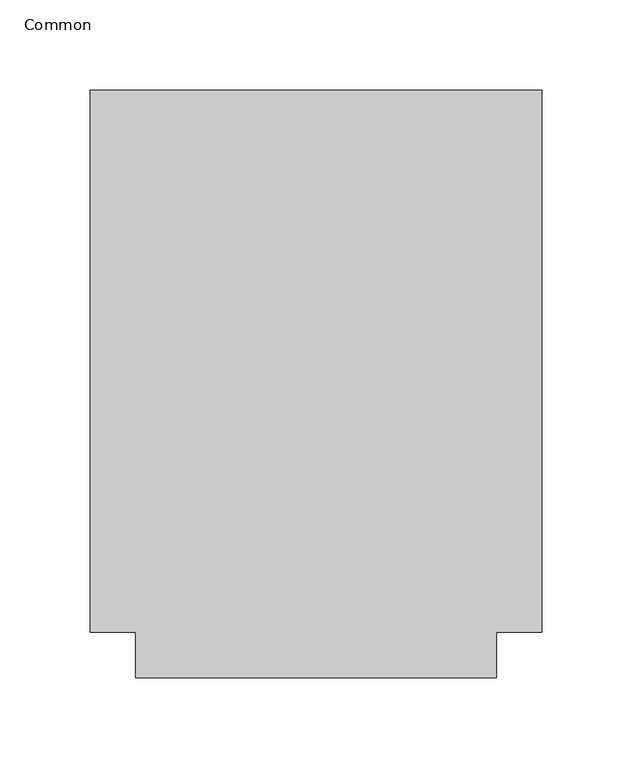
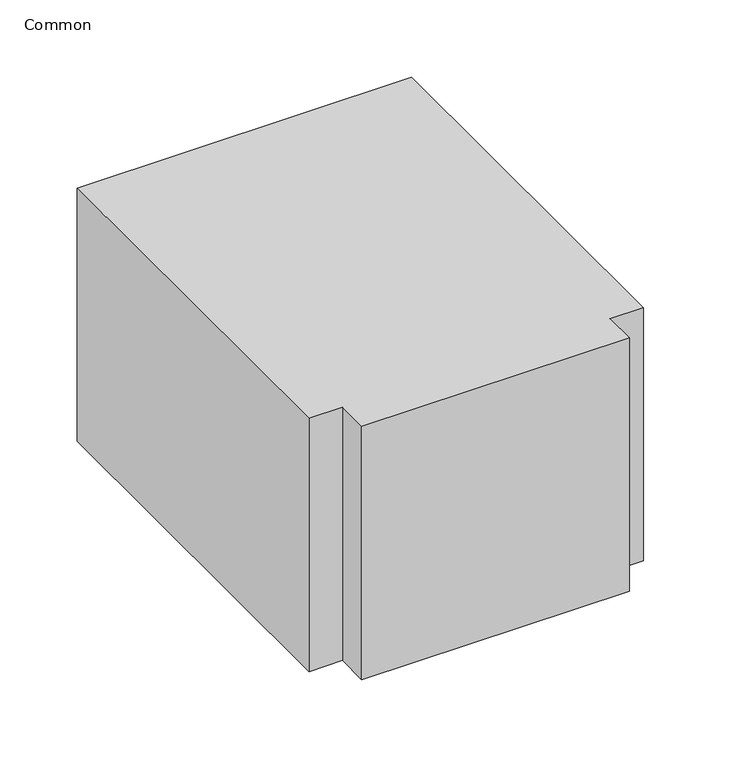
"""IFC4 building model written with IfcOpenShell, lengths in millimetres: duct fitting geometry, 022_角形片側分岐 : Common."""

import ifcopenshell
import ifcopenshell.guid

model = None  # the IFC model being written
_history = None  # IfcOwnerHistory: only IFC2X3 demands one
_inside = {}  # id of a spatial element -> (the spatial element, [elements in it])
_under = {}  # id of a project, library or spatial element -> (it, [spatial elements below it])
_declared = {}  # id of a project -> (the project, [libraries it declares])
_typed = {}  # id of a type object -> (the type object, [elements of that type])
_made_of = {}  # id of a material, layer set ... -> (it, [elements and type objects made of it])


def new_model(schema):
    """Start an empty IFC model of exactly this schema.

    Asked for "IFC4X3", IfcOpenShell would pick the latest addendum, in which some entities
    have other attributes; the version numbers below select the first issue.
    IFC2X3 requires an IfcOwnerHistory on every rooted entity: one is made here for all.
    """
    global model, _history
    if schema == "IFC4X3":
        model = ifcopenshell.file(schema_version=(4, 3, 0, 0))
    else:
        model = ifcopenshell.file(schema=schema)
    _inside.clear()
    _under.clear()
    _declared.clear()
    _typed.clear()
    _made_of.clear()
    _history = None
    if model.schema == "IFC2X3":
        org = make("IfcOrganization", Name="unknown")
        user = make(
            "IfcPersonAndOrganization",
            ThePerson=make("IfcPerson", FamilyName="unknown"),
            TheOrganization=org,
        )
        app = make(
            "IfcApplication",
            ApplicationDeveloper=org,
            Version="unknown",
            ApplicationFullName="unknown",
            ApplicationIdentifier="unknown",
        )
        _history = make(
            "IfcOwnerHistory",
            OwningUser=user,
            OwningApplication=app,
            ChangeAction="ADDED",
            CreationDate=0,
        )
    return model


def make(cls, **values):
    """One entity of the class cls with the attributes given. An attribute that is None is left unset."""
    return model.create_entity(
        cls, **{name: value for name, value in values.items() if value is not None}
    )


def rooted(cls, **values):
    """An entity with a GlobalId (a new one), such as an element, a storey or a relation."""
    return make(cls, GlobalId=ifcopenshell.guid.new(), OwnerHistory=_history, **values)


def si_unit(unit_type, name, prefix=None):
    """IfcSIUnit, for example si_unit("LENGTHUNIT", "METRE", prefix="MILLI")."""
    return make("IfcSIUnit", UnitType=unit_type, Prefix=prefix, Name=name)


def assignment(units):
    """IfcUnitAssignment: the units of a project."""
    return None if units is None else make("IfcUnitAssignment", Units=units)


def point(xyz):
    """IfcCartesianPoint."""
    return None if xyz is None else make("IfcCartesianPoint", Coordinates=xyz)


def direction(xyz):
    """IfcDirection."""
    return None if xyz is None else make("IfcDirection", DirectionRatios=xyz)


def frame(location, z_axis=None, x_axis=None):
    """IfcAxis2Placement3D, a coordinate frame: its origin and axes. An axis left out is left unset."""
    return make(
        "IfcAxis2Placement3D",
        Location=point(location),
        Axis=direction(z_axis),
        RefDirection=direction(x_axis),
    )


def origin():
    """The frame at (0, 0, 0) with its axes left unset."""
    return frame((0.0, 0.0, 0.0))


def place(relative_to, where):
    """IfcLocalPlacement: puts the frame where relative to a parent placement (None: the world)."""
    return make(
        "IfcLocalPlacement", PlacementRelTo=relative_to, RelativePlacement=where
    )


def context(
    kind, dimensions, precision=None, world=None, true_north=None, identifier=None
):
    """IfcGeometricRepresentationContext, for example the 3D "Model" context."""
    return make(
        "IfcGeometricRepresentationContext",
        ContextIdentifier=identifier,
        ContextType=kind,
        CoordinateSpaceDimension=dimensions,
        Precision=precision,
        WorldCoordinateSystem=world,
        TrueNorth=true_north,
    )


def project(units=None, contexts=None):
    """IfcProject with its units and contexts."""
    return rooted(
        "IfcProject",
        Name="project",
        RepresentationContexts=contexts,
        UnitsInContext=assignment(units),
    )


def spatial(cls, under=None, at=None, **own):
    """A site, building, storey or space (cls), placed at a placement, below another one or the project."""
    s = rooted(cls, ObjectPlacement=at, **own)
    if under is not None:
        _under.setdefault(under.id(), (under, []))[1].append(s)
    return s


def polyline(points):
    """IfcPolyline through the points."""
    return make("IfcPolyline", Points=[point(p) for p in points])


def outline(outer, holes=None, kind="AREA"):
    """IfcArbitraryClosedProfileDef: a profile drawn as a closed curve; with holes, ...WithVoids."""
    if holes is None:
        return make("IfcArbitraryClosedProfileDef", ProfileType=kind, OuterCurve=outer)
    return make(
        "IfcArbitraryProfileDefWithVoids",
        ProfileType=kind,
        OuterCurve=outer,
        InnerCurves=holes,
    )


def extrude(swept, where, along, depth):
    """IfcExtrudedAreaSolid: the profile swept, set in the frame where, extruded along a direction by depth."""
    return make(
        "IfcExtrudedAreaSolid",
        SweptArea=swept,
        Position=where,
        ExtrudedDirection=direction(along),
        Depth=depth,
    )


def shape(context_of_items, identifier, shape_type, items):
    """IfcShapeRepresentation: the items that make up one representation, for example the "Body"."""
    return make(
        "IfcShapeRepresentation",
        ContextOfItems=context_of_items,
        RepresentationIdentifier=identifier,
        RepresentationType=shape_type,
        Items=items,
    )


def source(mapping_origin, context_of_items, identifier, shape_type, items):
    """IfcRepresentationMap: a shape defined once, which mapped items show again and again."""
    return make(
        "IfcRepresentationMap",
        MappingOrigin=mapping_origin,
        MappedRepresentation=shape(context_of_items, identifier, shape_type, items),
    )


def transform(
    local_origin,
    x_axis=None,
    y_axis=None,
    z_axis=None,
    scale=None,
    scale2=None,
    scale3=None,
    uniform=True,
):
    """IfcCartesianTransformationOperator3D, or its non-uniform kind. x_axis, y_axis, z_axis: its Axis1, 2, 3."""
    if uniform:
        return make(
            "IfcCartesianTransformationOperator3D",
            Axis1=direction(x_axis),
            Axis2=direction(y_axis),
            LocalOrigin=point(local_origin),
            Scale=scale,
            Axis3=direction(z_axis),
        )
    return make(
        "IfcCartesianTransformationOperator3DnonUniform",
        Axis1=direction(x_axis),
        Axis2=direction(y_axis),
        LocalOrigin=point(local_origin),
        Scale=scale,
        Axis3=direction(z_axis),
        Scale2=scale2,
        Scale3=scale3,
    )


def mapped(mapping_source, mapping_target):
    """IfcMappedItem: shows the shape of a source again, moved by a transform."""
    return make(
        "IfcMappedItem", MappingSource=mapping_source, MappingTarget=mapping_target
    )


def made_of(thing, what):
    """Note that an element or type object is made of a material, layer set ...; save() writes the relation."""
    if what is not None:
        _made_of.setdefault(what.id(), (what, []))[1].append(thing)
    return thing


def element(
    cls,
    number,
    at=None,
    inside=None,
    cuts=None,
    type_object=None,
    material=None,
    context=None,
    identifier="Body",
    shape_type=None,
    held_by="IfcProductDefinitionShape",
    body=None,
    shapes=None,
    **own,
):
    """One element of the class cls, such as IfcWall. Its Tag is "e" and its number.

    at: its placement. inside: the storey or other place that contains it. cuts: it is an
    opening in that element (IfcRelVoidsElement). A single representation is given by context,
    identifier, shape_type and body (its items); several are given by shapes. held_by: the class
    of the entity that holds the representations. save() writes the other relations.
    """
    e = rooted(cls, Tag="e%d" % number, ObjectPlacement=at, **own)
    if body is not None:
        shapes = [shape(context, identifier, shape_type, body)]
    if shapes is not None:
        e.Representation = make(held_by, Representations=shapes)
    if inside is not None:
        _inside.setdefault(inside.id(), (inside, []))[1].append(e)
    if cuts is not None:
        rooted(
            "IfcRelVoidsElement", RelatingBuildingElement=cuts, RelatedOpeningElement=e
        )
    if type_object is not None:
        _typed.setdefault(type_object.id(), (type_object, []))[1].append(e)
    return made_of(e, material)


def aggregate(whole, parts):
    """IfcRelAggregates: a whole, such as a stair, and the parts it consists of."""
    return rooted("IfcRelAggregates", RelatingObject=whole, RelatedObjects=parts)


def save(model, path):
    """Write the relations noted so far, then the file.

    IfcRelAggregates (storeys below a building ...), IfcRelContainedInSpatialStructure (elements
    in a storey), IfcRelDefinesByType, IfcRelAssociatesMaterial and IfcRelDeclares: one each for
    every whole, place, type object, material and project.
    """
    for whole, parts in _under.values():
        aggregate(whole, parts)
    for where, things in _inside.values():
        rooted(
            "IfcRelContainedInSpatialStructure",
            RelatedElements=things,
            RelatingStructure=where,
        )
    for kind, things in _typed.values():
        rooted("IfcRelDefinesByType", RelatedObjects=things, RelatingType=kind)
    for what, things in _made_of.values():
        rooted("IfcRelAssociatesMaterial", RelatedObjects=things, RelatingMaterial=what)
    for by, libraries in _declared.values():
        rooted("IfcRelDeclares", RelatingContext=by, RelatedDefinitions=libraries)
    model.write(path)


def common_c3ac9124(model_context):
    return source(origin(), model_context, "Body", "SweptSolid", [
        extrude(outline(polyline([(-125.0, -150.0), (-125.0, 150.0), (125.0, 150.0), (125.0, -150.0), (100.0, -150.0), (100.0, -175.0), (-100.0, -175.0), (-100.0, -150.0), (-125.0, -150.0)])), frame((0.0, 0.0, -100.0), z_axis=(0.0, 0.0, 1.0), x_axis=(1.0, 0.0, 0.0)), (0.0, 0.0, 1.0), 200.0),
    ])


if __name__ == "__main__":
    model = new_model("IFC4")
    model_context = context("Model", 3, world=origin())
    ifc_project = project(units=[si_unit("LENGTHUNIT", "METRE", prefix="MILLI")], contexts=[model_context])
    site = spatial("IfcSite", under=ifc_project)
    building = spatial("IfcBuilding", under=site)
    placement = place(None, origin())
    common_shape = common_c3ac9124(model_context)
    element("IfcDuctFitting", 1, ObjectType="022_角形片側分岐 : Common", at=placement, inside=building, context=model_context, shape_type="MappedRepresentation", body=[
        mapped(common_shape, transform((0.0, 0.0, 0.0), x_axis=(1.0, 0.0, 0.0), y_axis=(0.0, 1.0, 0.0), z_axis=(0.0, 0.0, 1.0))),
    ])
    save(model, "model.ifc")
